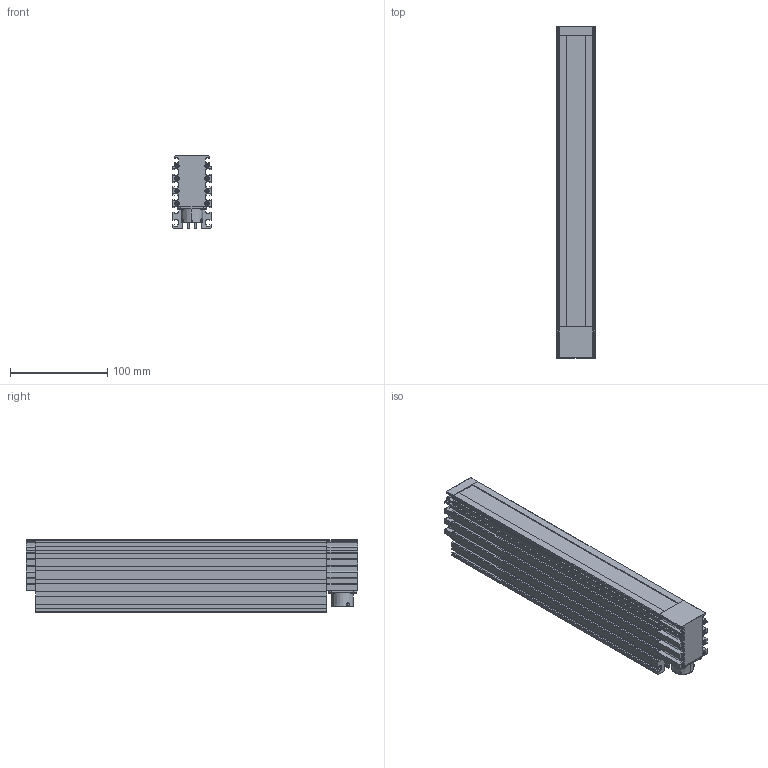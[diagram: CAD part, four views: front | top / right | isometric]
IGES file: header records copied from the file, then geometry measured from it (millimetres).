
Start section: SolidWorks IGES file using analytic representation for surfaces
Global section: file name: C:\Users\88691\Desktop\VST LIGHTING\VST LINEAR LIGHT 線燈\VLN 線光\VLN STEP圖檔用\VLN (L_D_X)-300W _ Drawing _ L1256A (L1271A_L1287A_L1302A)-A00101.IGS; native system: SolidWorks 2020; preprocessor: SolidWorks 2020; author: 88691; date: 240624.131510; units: millimetre
Bounding box: 40 x 342 x 75 mm (x, y, z)
Surface area: 194529.2 mm2 (no closed solid volume)
Topology: 0 solids, 0 shells, 1158 faces, 12124 edges, 12123 vertices
Faces by surface type: bspline 734, revolution 424
